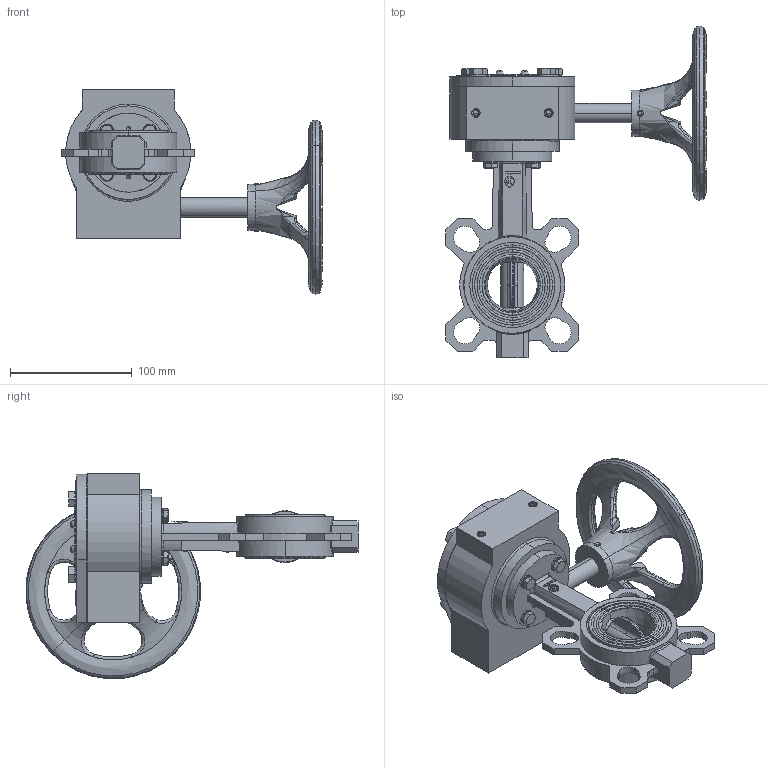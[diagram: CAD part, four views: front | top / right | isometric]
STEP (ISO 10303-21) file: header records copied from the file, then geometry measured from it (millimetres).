
FILE_DESCRIPTION (( 'STEP AP214' ), '1' );
FILE_NAME ('VPG444X-08XX0040.step', '2022-06-30T08:24:31', ( '' ), ( '' ), 'SwSTEP 2.0', 'SolidWorks 2020', '' );
FILE_SCHEMA (( 'AUTOMOTIVE_DESIGN' ));
Length unit declared in the file: millimetre
Products named in the file (1): VPG444X-08XX0040
Bounding box: 214.03 x 273.23 x 168.73 mm (x, y, z)
Surface area: 149797.5 mm2 (no closed solid volume)
Topology: 0 solids, 62 shells, 943 faces, 5784 edges, 4788 vertices
Faces by surface type: plane 495, bspline 200, cylinder 156, cone 88, torus 4
Entity records: 88681 total; most frequent: CARTESIAN_POINT 38533, ORIENTED_EDGE 7806, DIRECTION 6391, EDGE_CURVE 5769, VERTEX_POINT 4788, VECTOR 3543, LINE 3543, B_SPLINE_CURVE_WITH_KNOTS 1455
